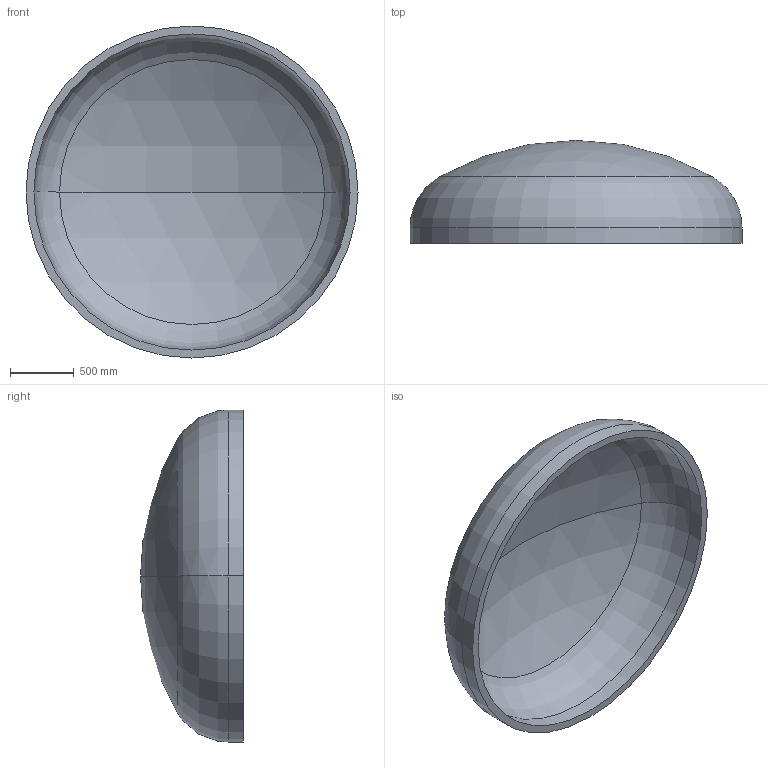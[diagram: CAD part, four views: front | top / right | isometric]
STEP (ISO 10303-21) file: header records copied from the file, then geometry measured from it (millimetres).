
FILE_DESCRIPTION (( 'STEP AP203' ), '1' );
FILE_NAME ('DIN 28013 Korbbogenform_-_Boden DIN 28013 - 2600 x 120 - I - s=62.step', '2016-07-01T16:19:43', ( '' ), ( '' ), 'SwSTEP 2.0', 'SolidWorks 2013', '' );
FILE_SCHEMA (( 'CONFIG_CONTROL_DESIGN' ));
Length unit declared in the file: millimetre
Products named in the file (1): DIN 28013 Korbbogenform_-_Boden DIN 28013 - 2600 x 120 - I - s=62
Bounding box: 2600 x 805.92 x 2600 mm (x, y, z)
Volume: 501086930.1 mm3; surface area: 16666488.6 mm2
Topology: 1 solids, 1 shells, 13 faces, 24 edges, 14 vertices
Faces by surface type: torus 4, cylinder 4, sphere 4, plane 1
Entity records: 407 total; most frequent: DIRECTION 72, CARTESIAN_POINT 52, ORIENTED_EDGE 48, AXIS2_PLACEMENT_3D 34, EDGE_CURVE 24, CIRCLE 20, EDGE_LOOP 14, VERTEX_POINT 14
